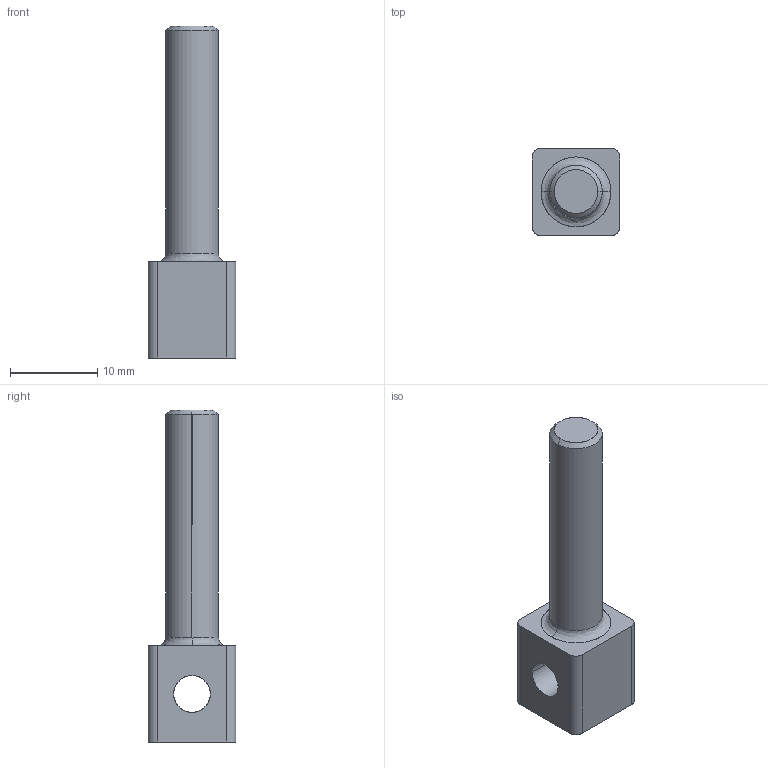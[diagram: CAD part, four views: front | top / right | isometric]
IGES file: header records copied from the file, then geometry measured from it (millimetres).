
Start section: SolidWorks IGES FILE using analytic representation for surfaces
Global section: file name: C:\Documents and Settings\lecoutey\Bureau\GR\58.100.00.IGS; native system: SolidWorks 2004 by SolidWorks Corporation; preprocessor: Version 5.3; author: lecoutey; date: 050404.180235; units: millimetre
Bounding box: 10 x 10 x 38 mm (x, y, z)
Surface area: 1219.1 mm2 (no closed solid volume)
Topology: 0 solids, 0 shells, 19 faces, 264 edges, 264 vertices
Faces by surface type: revolution 10, bspline 9
